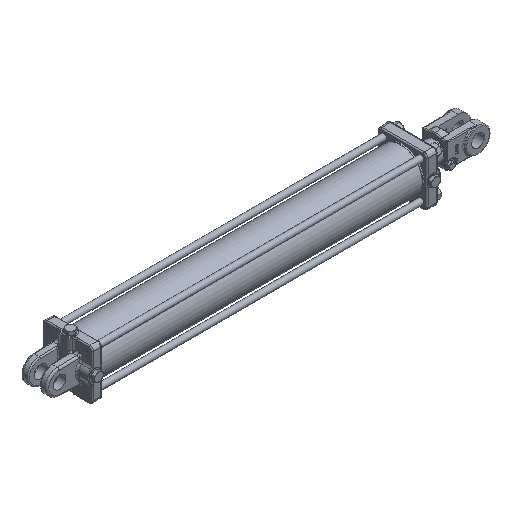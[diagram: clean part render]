
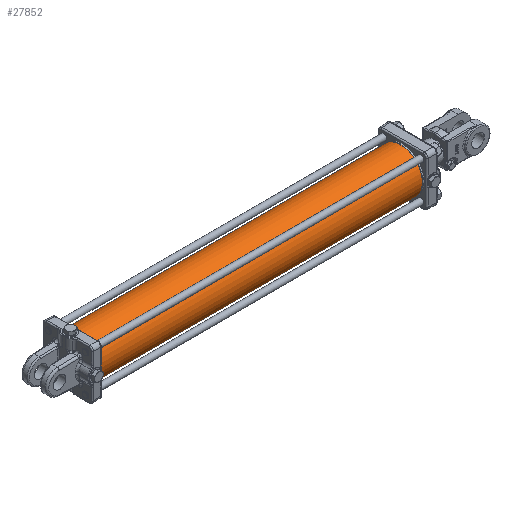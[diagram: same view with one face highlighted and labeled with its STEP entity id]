
A CAD part, isometric view. The second image highlights one B-rep face of the part: STEP entity #27852.
In plain terms, the highlighted cylindrical face has radius 55.562 mm (diameter 111.125 mm), a full revolution.
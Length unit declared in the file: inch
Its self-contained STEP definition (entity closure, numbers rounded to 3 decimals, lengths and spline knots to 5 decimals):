
#27738=CARTESIAN_POINT('',(0.,2.1875,0.0));
#27739=VERTEX_POINT('',#27738);
#27740=CARTESIAN_POINT('',(0.,0.0,0.0));
#27741=DIRECTION('',(1.0,0.0,0.0));
#27742=DIRECTION('',(0.0,1.0,0.0));
#27743=AXIS2_PLACEMENT_3D('',#27740,#27741,#27742);
#27744=CIRCLE('',#27743,2.1875);
#27745=EDGE_CURVE('',#27739,#27739,#27744,.T.);
#27826=CARTESIAN_POINT('',(-32.5625,2.1875,0.0));
#27827=VERTEX_POINT('',#27826);
#27828=CARTESIAN_POINT('',(-32.5625,0.0,0.0));
#27829=DIRECTION('',(1.0,0.0,0.0));
#27830=DIRECTION('',(0.0,1.0,0.0));
#27831=AXIS2_PLACEMENT_3D('',#27828,#27829,#27830);
#27832=CIRCLE('',#27831,2.1875);
#27833=EDGE_CURVE('',#27827,#27827,#27832,.T.);
#27841=CARTESIAN_POINT('',(-16.28125,0.0,0.0));
#27842=DIRECTION('',(1.0,0.0,0.0));
#27843=DIRECTION('',(0.0,1.0,0.0));
#27844=AXIS2_PLACEMENT_3D('',#27841,#27842,#27843);
#27845=CYLINDRICAL_SURFACE('',#27844,2.1875);
#27846=ORIENTED_EDGE('',*,*,#27745,.F.);
#27847=EDGE_LOOP('',(#27846));
#27848=FACE_OUTER_BOUND('',#27847,.T.);
#27849=ORIENTED_EDGE('',*,*,#27833,.T.);
#27850=EDGE_LOOP('',(#27849));
#27851=FACE_BOUND('',#27850,.T.);
#27852=ADVANCED_FACE('',(#27848,#27851),#27845,.T.);
